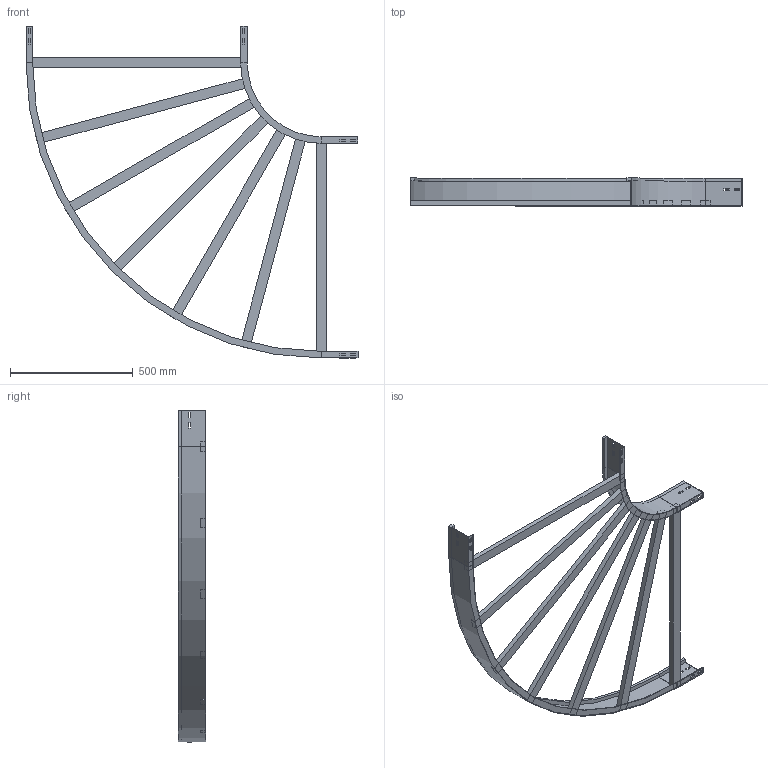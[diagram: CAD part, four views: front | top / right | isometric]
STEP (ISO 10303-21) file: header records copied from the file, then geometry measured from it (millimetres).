
FILE_DESCRIPTION (( 'STEP AP214' ), '1' );
FILE_NAME ('A2_10B3J900.step', '2025-02-21T15:24:59', ( '' ), ( '' ), 'SwSTEP 2.0', 'SolidWorks 2023', '' );
FILE_SCHEMA (( 'AUTOMOTIVE_DESIGN' ));
Length unit declared in the file: millimetre
Products named in the file (4): A2_LONGH.INTERNO 90°_H112.5_R300; A2_LONGH.ESTERNO 90°_H112.5_R300+900; TRAVERSINO_900; A2_10B3J900
Assembly tree (9 placements, depth 2):
  A2_10B3J900
    A2_LONGH.INTERNO 90°_H112.5_R300
    A2_LONGH.ESTERNO 90°_H112.5_R300+900
    TRAVERSINO_900  x7
Bounding box: 1350 x 112.5 x 1350 mm (x, y, z)
Volume: 6455934.8 mm3; surface area: 1688424.5 mm2
Topology: 9 solids, 9 shells, 158 faces, 388 edges, 248 vertices
Faces by surface type: plane 150, cylinder 8
Entity records: 3853 total; most frequent: CARTESIAN_POINT 650, ORIENTED_EDGE 632, DIRECTION 600, EDGE_CURVE 316, LINE 300, VECTOR 300, VERTEX_POINT 200, EDGE_LOOP 154
